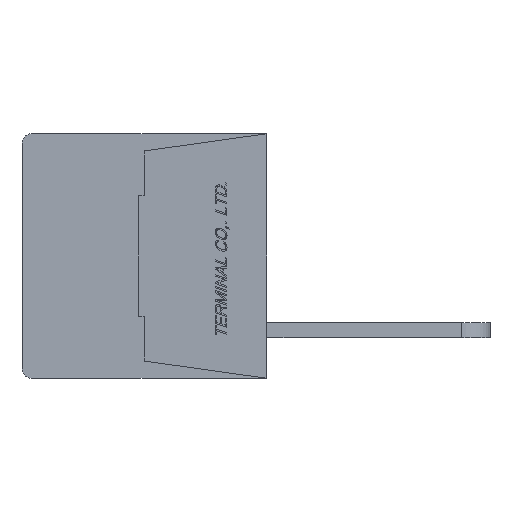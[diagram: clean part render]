
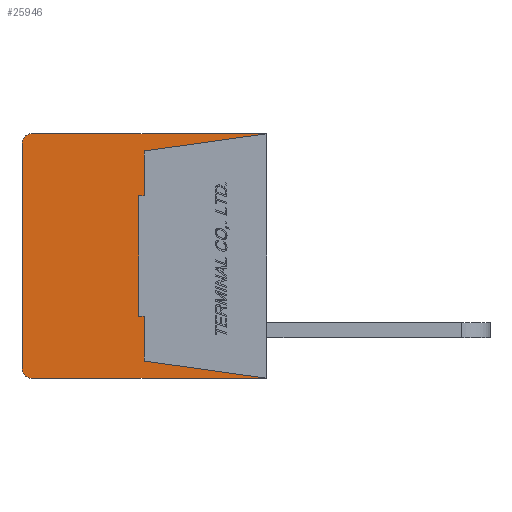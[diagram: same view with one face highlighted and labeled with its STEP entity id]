
A CAD part, left-side view. The second image highlights one B-rep face of the part: STEP entity #25946.
In plain terms, the highlighted planar face has unit normal (-1, 0, 0).
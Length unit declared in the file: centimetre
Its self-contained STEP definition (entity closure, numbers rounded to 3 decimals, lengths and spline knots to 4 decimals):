
#1354=CIRCLE('',#44359,0.05);
#1355=CIRCLE('',#44362,0.05);
#2372=VERTEX_POINT('',#36219);
#2373=VERTEX_POINT('',#36221);
#2374=VERTEX_POINT('',#36225);
#2375=VERTEX_POINT('',#36229);
#2376=VERTEX_POINT('',#36233);
#2377=VERTEX_POINT('',#36237);
#2378=VERTEX_POINT('',#36241);
#2379=VERTEX_POINT('',#36243);
#2380=VERTEX_POINT('',#36245);
#2381=VERTEX_POINT('',#36247);
#2382=VERTEX_POINT('',#36249);
#2383=VERTEX_POINT('',#36251);
#5112=VECTOR('',#30068,1.);
#5116=VECTOR('',#30077,1.);
#5119=VECTOR('',#30085,1.);
#5120=VECTOR('',#30087,1.);
#5121=VECTOR('',#30088,1.);
#5122=VECTOR('',#30089,1.);
#5123=VECTOR('',#30090,1.);
#5124=VECTOR('',#30091,1.);
#5125=VECTOR('',#30092,1.);
#5126=VECTOR('',#30093,1.);
#8150=LINE('',#36220,#5112);
#8154=LINE('',#36230,#5116);
#8157=LINE('',#36238,#5119);
#8158=LINE('',#36240,#5120);
#8159=LINE('',#36242,#5121);
#8160=LINE('',#36244,#5122);
#8161=LINE('',#36246,#5123);
#8162=LINE('',#36248,#5124);
#8163=LINE('',#36250,#5125);
#8164=LINE('',#36252,#5126);
#11548=EDGE_CURVE('',#2373,#2372,#8150,.T.);
#11551=EDGE_CURVE('',#2374,#2372,#1354,.T.);
#11553=EDGE_CURVE('',#2374,#2375,#8154,.T.);
#11555=EDGE_CURVE('',#2376,#2375,#1355,.T.);
#11557=EDGE_CURVE('',#2376,#2377,#8157,.T.);
#11558=EDGE_CURVE('',#2378,#2373,#8158,.T.);
#11559=EDGE_CURVE('',#2377,#2379,#8159,.T.);
#11560=EDGE_CURVE('',#2379,#2380,#8160,.T.);
#11561=EDGE_CURVE('',#2380,#2381,#8161,.T.);
#11562=EDGE_CURVE('',#2381,#2382,#8162,.T.);
#11563=EDGE_CURVE('',#2382,#2383,#8163,.T.);
#11564=EDGE_CURVE('',#2383,#2378,#8164,.T.);
#16851=ORIENTED_EDGE('',*,*,#11558,.T.);
#16852=ORIENTED_EDGE('',*,*,#11548,.T.);
#16853=ORIENTED_EDGE('',*,*,#11551,.F.);
#16854=ORIENTED_EDGE('',*,*,#11553,.T.);
#16855=ORIENTED_EDGE('',*,*,#11555,.F.);
#16856=ORIENTED_EDGE('',*,*,#11557,.T.);
#16857=ORIENTED_EDGE('',*,*,#11559,.T.);
#16858=ORIENTED_EDGE('',*,*,#11560,.T.);
#16859=ORIENTED_EDGE('',*,*,#11561,.T.);
#16860=ORIENTED_EDGE('',*,*,#11562,.T.);
#16861=ORIENTED_EDGE('',*,*,#11563,.T.);
#16862=ORIENTED_EDGE('',*,*,#11564,.T.);
#22584=EDGE_LOOP('',(#16851,#16852,#16853,#16854,#16855,#16856,#16857,#16858,
#16859,#16860,#16861,#16862));
#24314=FACE_BOUND('',#22584,.T.);
#25946=ADVANCED_FACE('',(#24314),#27342,.F.);
#27342=PLANE('',#44364);
#30068=DIRECTION('',(0.,1.,0.));
#30073=DIRECTION('',(1.,0.,0.));
#30074=DIRECTION('',(0.,0.,-0.05));
#30077=DIRECTION('',(0.,0.,-1.));
#30081=DIRECTION('',(1.,0.,0.));
#30082=DIRECTION('',(0.,0.,-0.05));
#30085=DIRECTION('',(0.,-1.,0.));
#30086=DIRECTION('',(1.,0.,0.));
#30087=DIRECTION('',(0.,-0.99,0.139));
#30088=DIRECTION('',(0.,0.99,0.139));
#30089=DIRECTION('',(0.,0.,1.));
#30090=DIRECTION('',(0.,1.,0.));
#30091=DIRECTION('',(0.,0.,1.));
#30092=DIRECTION('',(0.,-1.,0.));
#30093=DIRECTION('',(0.,0.,1.));
#36219=CARTESIAN_POINT('',(-1.,1.23,0.64));
#36220=CARTESIAN_POINT('',(-1.,0.,0.64));
#36221=CARTESIAN_POINT('',(-1.,0.,0.64));
#36225=CARTESIAN_POINT('',(-1.,1.28,0.59));
#36226=CARTESIAN_POINT('',(-1.,1.23,0.59));
#36229=CARTESIAN_POINT('',(-1.,1.28,-0.59));
#36230=CARTESIAN_POINT('',(-1.,1.28,0.59));
#36233=CARTESIAN_POINT('',(-1.,1.23,-0.64));
#36234=CARTESIAN_POINT('',(-1.,1.23,-0.59));
#36237=CARTESIAN_POINT('',(-1.,0.,-0.64));
#36238=CARTESIAN_POINT('',(-1.,1.23,-0.64));
#36239=CARTESIAN_POINT('',(-1.,0.6345,0.));
#36240=CARTESIAN_POINT('',(-1.,0.64,0.55));
#36241=CARTESIAN_POINT('',(-1.,0.64,0.55));
#36242=CARTESIAN_POINT('',(-1.,0.,-0.64));
#36243=CARTESIAN_POINT('',(-1.,0.64,-0.55));
#36244=CARTESIAN_POINT('',(-1.,0.64,-0.55));
#36245=CARTESIAN_POINT('',(-1.,0.64,-0.315));
#36246=CARTESIAN_POINT('',(-1.,0.64,-0.315));
#36247=CARTESIAN_POINT('',(-1.,0.67,-0.315));
#36248=CARTESIAN_POINT('',(-1.,0.67,-0.315));
#36249=CARTESIAN_POINT('',(-1.,0.67,0.315));
#36250=CARTESIAN_POINT('',(-1.,0.67,0.315));
#36251=CARTESIAN_POINT('',(-1.,0.64,0.315));
#36252=CARTESIAN_POINT('',(-1.,0.64,0.315));
#44359=AXIS2_PLACEMENT_3D('',#36226,#30073,#30074);
#44362=AXIS2_PLACEMENT_3D('',#36234,#30081,#30082);
#44364=AXIS2_PLACEMENT_3D('',#36239,#30086,$);
